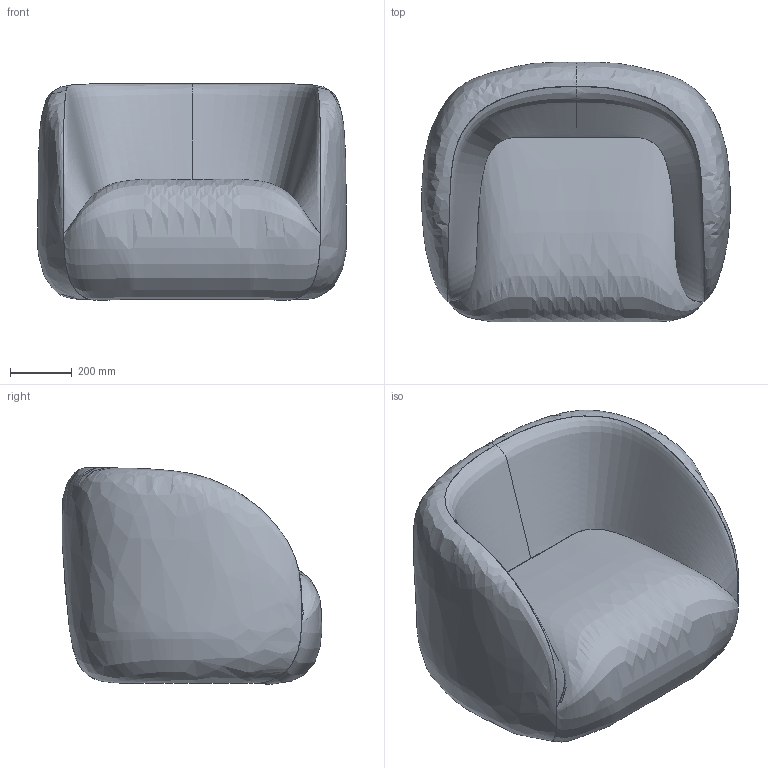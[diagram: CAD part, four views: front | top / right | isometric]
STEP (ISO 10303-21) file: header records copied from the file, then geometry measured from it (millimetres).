
FILE_DESCRIPTION(/* description */ (''),/* implementation_level */ '2;1');
FILE_NAME(/* name */ 'Nesten lounge chair_3D',/* time_stamp */ '2024-09-03T14:23:30+02:00',/* author */ (''),/* organization */ (''),/* preprocessor_version */ 'ST-DEVELOPER v16.5',/* originating_system */ 'Rhino 7.37',/* authorisation */ '');
FILE_SCHEMA (('CONFIG_CONTROL_DESIGN'));
Length unit declared in the file: millimetre
Products named in the file (1): Document
Bounding box: 1001.36 x 842.11 x 703.03 mm (x, y, z)
Surface area: 3075427 mm2 (no closed solid volume)
Topology: 0 solids, 3 shells, 5 faces, 18 edges, 14 vertices
Faces by surface type: bspline 5
Entity records: 4967 total; most frequent: CARTESIAN_POINT 4787, ORIENTED_EDGE 18, EDGE_CURVE 16, B_SPLINE_CURVE_WITH_KNOTS 16, VERTEX_POINT 14, ORGANIZATION 7, PERSON_AND_ORGANIZATION 7, ADVANCED_FACE 5
